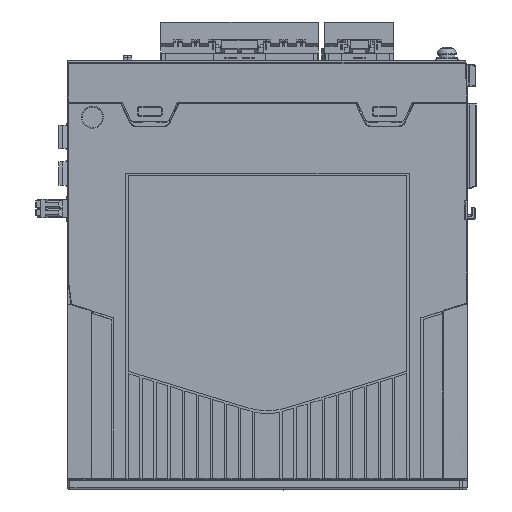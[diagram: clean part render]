
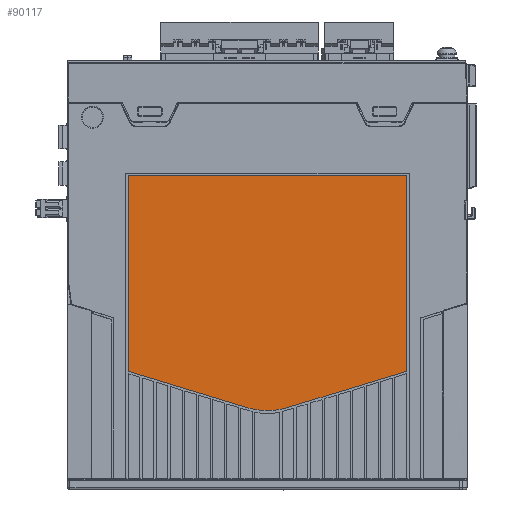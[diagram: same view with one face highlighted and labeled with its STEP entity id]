
A CAD part, left-side view. The second image highlights one B-rep face of the part: STEP entity #90117.
In plain terms, the highlighted planar face has unit normal (-1, 0, 0).
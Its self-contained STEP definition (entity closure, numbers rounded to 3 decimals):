
#44721=CARTESIAN_POINT('',(-55.9,16.002,-114.203));
#44722=DIRECTION('',(1.,0.,0.));
#44723=DIRECTION('',(0.,-1.,0.));
#44724=AXIS2_PLACEMENT_3D('',#44721,#44722,#44723);
#44726=DIRECTION('',(0.,0.956,-0.292));
#44727=VECTOR('',#44726,52.616);
#44728=CARTESIAN_POINT('',(-55.9,15.914,-114.49));
#44729=LINE('',#44728,#44727);
#44730=CARTESIAN_POINT('',(-55.9,75.002,-101.184));
#44731=DIRECTION('',(1.,0.,0.));
#44732=DIRECTION('',(0.,-0.292,-0.956));
#44733=AXIS2_PLACEMENT_3D('',#44730,#44731,#44732);
#44735=CARTESIAN_POINT('',(-55.9,75.002,-101.184));
#44736=DIRECTION('',(1.,0.,0.));
#44737=DIRECTION('',(0.,0.,-1.));
#44738=AXIS2_PLACEMENT_3D('',#44735,#44736,#44737);
#44740=DIRECTION('',(0.,0.956,0.292));
#44741=VECTOR('',#44740,52.616);
#44742=CARTESIAN_POINT('',(-55.9,83.773,-129.874));
#44743=LINE('',#44742,#44741);
#44744=CARTESIAN_POINT('',(-55.9,134.002,-114.203));
#44745=DIRECTION('',(1.,0.,0.));
#44746=DIRECTION('',(0.,0.292,-0.956));
#44747=AXIS2_PLACEMENT_3D('',#44744,#44745,#44746);
#44749=DIRECTION('',(0.,0.,1.));
#44750=VECTOR('',#44749,82.738);
#44751=CARTESIAN_POINT('',(-55.9,134.302,-114.203));
#44752=LINE('',#44751,#44750);
#44753=CARTESIAN_POINT('',(-55.9,134.002,-31.465));
#44754=DIRECTION('',(1.,0.,0.));
#44755=DIRECTION('',(0.,1.,0.));
#44756=AXIS2_PLACEMENT_3D('',#44753,#44754,#44755);
#44758=DIRECTION('',(0.,-1.,0.));
#44759=VECTOR('',#44758,118.);
#44760=CARTESIAN_POINT('',(-55.9,134.002,-31.165));
#44761=LINE('',#44760,#44759);
#44762=CARTESIAN_POINT('',(-55.9,16.002,-31.465));
#44763=DIRECTION('',(1.,0.,0.));
#44764=DIRECTION('',(0.,0.,1.));
#44765=AXIS2_PLACEMENT_3D('',#44762,#44763,#44764);
#44767=DIRECTION('',(0.,0.,-1.));
#44768=VECTOR('',#44767,82.738);
#44769=CARTESIAN_POINT('',(-55.9,15.702,-31.465));
#44770=LINE('',#44769,#44768);
#71967=CARTESIAN_POINT('',(-55.9,15.914,-114.49));
#71968=VERTEX_POINT('',#71967);
#71969=CARTESIAN_POINT('',(-55.9,66.23,-129.874));
#71970=VERTEX_POINT('',#71969);
#71971=CARTESIAN_POINT('',(-55.9,15.702,-114.203));
#71972=VERTEX_POINT('',#71971);
#71973=CARTESIAN_POINT('',(-55.9,75.002,-131.184));
#71974=VERTEX_POINT('',#71973);
#71975=CARTESIAN_POINT('',(-55.9,83.773,-129.874));
#71976=VERTEX_POINT('',#71975);
#71977=CARTESIAN_POINT('',(-55.9,134.089,-114.49));
#71978=VERTEX_POINT('',#71977);
#71979=CARTESIAN_POINT('',(-55.9,134.302,-114.203));
#71980=VERTEX_POINT('',#71979);
#71981=CARTESIAN_POINT('',(-55.9,134.302,-31.465));
#71982=VERTEX_POINT('',#71981);
#71983=CARTESIAN_POINT('',(-55.9,134.002,-31.165));
#71984=VERTEX_POINT('',#71983);
#71985=CARTESIAN_POINT('',(-55.9,16.002,-31.165));
#71986=VERTEX_POINT('',#71985);
#71987=CARTESIAN_POINT('',(-55.9,15.702,-31.465));
#71988=VERTEX_POINT('',#71987);
#90090=CARTESIAN_POINT('',(-55.9,75.002,-81.175));
#90091=DIRECTION('',(1.,0.,0.));
#90092=DIRECTION('',(0.,0.,1.));
#90093=AXIS2_PLACEMENT_3D('',#90090,#90091,#90092);
#90094=PLANE('',#90093);
#90095=ORIENTED_EDGE('',*,*,#90075,.T.);
#90096=ORIENTED_EDGE('',*,*,#90057,.T.);
#90098=ORIENTED_EDGE('',*,*,#90097,.T.);
#90100=ORIENTED_EDGE('',*,*,#90099,.T.);
#90102=ORIENTED_EDGE('',*,*,#90101,.T.);
#90104=ORIENTED_EDGE('',*,*,#90103,.T.);
#90106=ORIENTED_EDGE('',*,*,#90105,.T.);
#90108=ORIENTED_EDGE('',*,*,#90107,.T.);
#90110=ORIENTED_EDGE('',*,*,#90109,.T.);
#90112=ORIENTED_EDGE('',*,*,#90111,.T.);
#90114=ORIENTED_EDGE('',*,*,#90113,.T.);
#90115=EDGE_LOOP('',(#90095,#90096,#90098,#90100,#90102,#90104,#90106,#90108,
#90110,#90112,#90114));
#90116=FACE_OUTER_BOUND('',#90115,.F.);
#44725=CIRCLE('',#44724,0.3);
#44734=CIRCLE('',#44733,30.);
#44739=CIRCLE('',#44738,30.);
#44748=CIRCLE('',#44747,0.3);
#44757=CIRCLE('',#44756,0.3);
#44766=CIRCLE('',#44765,0.3);
#90057=EDGE_CURVE('',#71968,#71970,#44729,.T.);
#90075=EDGE_CURVE('',#71972,#71968,#44725,.T.);
#90097=EDGE_CURVE('',#71970,#71974,#44734,.T.);
#90099=EDGE_CURVE('',#71974,#71976,#44739,.T.);
#90101=EDGE_CURVE('',#71976,#71978,#44743,.T.);
#90103=EDGE_CURVE('',#71978,#71980,#44748,.T.);
#90105=EDGE_CURVE('',#71980,#71982,#44752,.T.);
#90107=EDGE_CURVE('',#71982,#71984,#44757,.T.);
#90109=EDGE_CURVE('',#71984,#71986,#44761,.T.);
#90111=EDGE_CURVE('',#71986,#71988,#44766,.T.);
#90113=EDGE_CURVE('',#71988,#71972,#44770,.T.);
#90117=ADVANCED_FACE('',(#90116),#90094,.F.);
